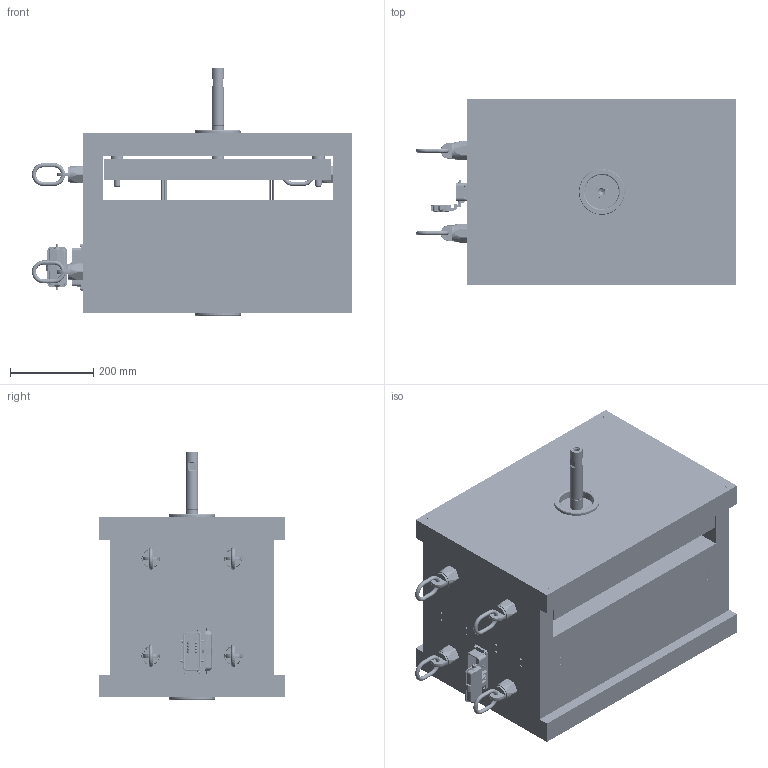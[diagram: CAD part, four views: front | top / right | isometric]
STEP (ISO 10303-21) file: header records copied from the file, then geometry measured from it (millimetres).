
FILE_DESCRIPTION(('CATIA V5 STEP Exchange','CAx-IF Rec.Pracs.--- Model Styling and Organization---1.5--- 2016-08-15','CAx-IF Rec.Pracs.---Supplemental Geometry---1.0---2011-11-01','CAx-IF Rec.Pracs.--- Composite Materials ---3.4---2017-06-13','CAx-IF Rec.Pracs.---Tessellated 3D Geometry---1.0---2015-12-17'),'2;1');
FILE_NAME('C:\Users\HP\Desktop\Přílohy\Forma Pluháček step.stp','2025-05-15T17:24:59+00:00',('none'),('none'),'CATIA Version 5-6 Release 2020 SP6','CATIA V5 STEP AP242 v2','none');
FILE_SCHEMA(('AP242_MANAGED_MODEL_BASED_3D_ENGINEERING_MIM_LF {1 0 10303 442 1 1 4}'));
Products named in the file (291): Forma Pluhacek; Tvarova deska prava; P 396 646_36_1730_1; TlgItf_Tvarova deska prava; Tvarnice a sibry1; Tvarnice; Z1880_12x25x71; Z1880_12x25x71_2; Z1801_12x25x40; Z374_4x5_9; Z374_4x5_11; Z374_4x5_6; Z374_4x5_8; Z374_4x5_3; Z374_4x5_5; Z374_4x5; Z374_4x5_2; Z25_5x16_3; Z25_5x16_2; Z32_5x22_3; Z32_5x22_2; Z32_5x10_1; Z1850_16x7x71_4; Z1850_16x7x71_6; Z1850_16x7x71_7; Z25_5x16_1; Z25_5x16; Z32_5x22_1; Z32_5x22; Z32_5x10; Z1850_16x7x71; Z1850_16x7x71_2; Z1850_16x7x71_3; Z1881_25x57x71; Z1881_25x57x71_1; Part1; Z1802_12x25x30_1.2767; Z1802_12x25x30_1.2767_1; CapScrew_E1200_2; Z1840_12x22x10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
Assembly tree (437 placements, depth 7):
  Forma Pluhacek
    Tvarova deska prava
      P 396 646_36_1730_1
      TlgItf_Tvarova deska prava
    Tvarnice a sibry1
      Tvarnice
      Z1880_12x25x71
        Z1880_12x25x71_2
          Z1801_12x25x40
          Z374_4x5_9
            Z374_4x5_11
          Z374_4x5_6
            Z374_4x5_8
          Z374_4x5_3
            Z374_4x5_5
          Z374_4x5
            Z374_4x5_2
          Z25_5x16_3
          Z25_5x16_2
          Z32_5x22_3
          Z32_5x22_2
          Z32_5x10_1
          Z1850_16x7x71_4
            Z1850_16x7x71_6
              Z1850_16x7x71_7
          Z25_5x16_1
          Z25_5x16
          Z32_5x22_1
          Z32_5x22
          Z32_5x10
          Z1850_16x7x71
            Z1850_16x7x71_2
              Z1850_16x7x71_3
          Z1881_25x57x71
            Z1881_25x57x71_1
        Part1
        Z1802_12x25x30_1.2767
          Z1802_12x25x30_1.2767_1
          CapScrew_E1200_2  x2
        Z1840_12x22x10
          Z1840_12x22x10_1
      Copy (2) of Z1880_12x25x71
        Z1880_12x25x71_2_1
          Z1801_12x25x40
          Z374_4x5_9_1
            Z374_4x5_11
          Z374_4x5_6_1
            Z374_4x5_8
          Z374_4x5_3_1
            Z374_4x5_5
          Z374_4x5_1
            Z374_4x5_2
          Z25_5x16_3
          Z25_5x16_2
          Z32_5x22_3
          Z32_5x22_2
          Z32_5x10_1
          Z1850_16x7x71_4_1
            Z1850_16x7x71_6_1
              Z1850_16x7x71_7
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Bounding box: 770 x 446 x 598.07 mm (x, y, z)
Volume: 96946963.1 mm3; surface area: 8560055.7 mm2
Topology: 442 solids, 447 shells, 15383 faces, 36938 edges, 22910 vertices
Faces by surface type: cylinder 5865, plane 5141, cone 2296, torus 1273, sphere 434, bspline 358, extrusion 16
Entity records: 222977 total; most frequent: CARTESIAN_POINT 72787, ORIENTED_EDGE 32574, DIRECTION 22919, EDGE_CURVE 16287, VERTEX_POINT 10526, AXIS2_PLACEMENT_3D 10388, VECTOR 7654, LINE 7650
